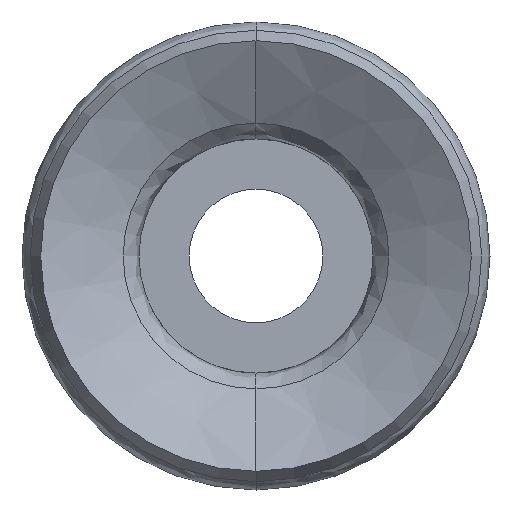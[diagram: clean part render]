
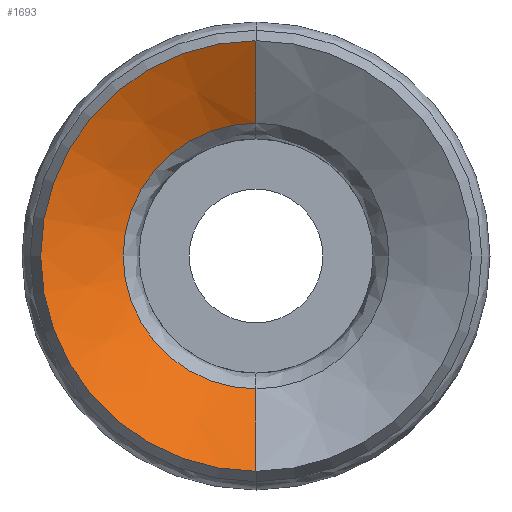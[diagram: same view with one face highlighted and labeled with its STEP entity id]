
A CAD part, front view. The second image highlights one B-rep face of the part: STEP entity #1693.
In plain terms, the highlighted conical face has half-angle 60.29 degrees and reference radius 7.946 mm.
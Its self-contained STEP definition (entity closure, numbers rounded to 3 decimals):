
#7 = AXIS2_PLACEMENT_3D ( 'NONE', #994, #940, #1516 ) ;
#104 = VERTEX_POINT ( 'NONE', #991 ) ;
#112 = CARTESIAN_POINT ( 'NONE',  ( 0., -30.184, 0. ) ) ;
#126 = CARTESIAN_POINT ( 'NONE',  ( 0., -30.184, 7.946 ) ) ;
#396 = ORIENTED_EDGE ( 'NONE', *, *, #934, .T. ) ;
#482 = VERTEX_POINT ( 'NONE', #1556 ) ;
#546 = VERTEX_POINT ( 'NONE', #1397 ) ;
#636 = ORIENTED_EDGE ( 'NONE', *, *, #1482, .T. ) ;
#647 = CIRCLE ( 'NONE', #1240, 12.88 ) ;
#670 = CARTESIAN_POINT ( 'NONE',  ( 0., -33., 0. ) ) ;
#678 = DIRECTION ( 'NONE',  ( 0., -1., 0. ) ) ;
#780 = DIRECTION ( 'NONE',  ( 0., 0., 1. ) ) ;
#790 = FACE_OUTER_BOUND ( 'NONE', #1483, .T. ) ;
#810 = LINE ( 'NONE', #126, #1478 ) ;
#896 = DIRECTION ( 'NONE',  ( 0., 1., 0. ) ) ;
#927 = CIRCLE ( 'NONE', #1077, 7.946 ) ;
#934 = EDGE_CURVE ( 'NONE', #482, #1356, #927, .T. ) ;
#940 = DIRECTION ( 'NONE',  ( 0., -1., 0. ) ) ;
#991 = CARTESIAN_POINT ( 'NONE',  ( 0., -33., 12.88 ) ) ;
#994 = CARTESIAN_POINT ( 'NONE',  ( 0., -30.184, 0. ) ) ;
#1049 = EDGE_CURVE ( 'NONE', #1356, #104, #810, .T. ) ;
#1077 = AXIS2_PLACEMENT_3D ( 'NONE', #112, #896, #1675 ) ;
#1117 = LINE ( 'NONE', #1295, #1782 ) ;
#1153 = CARTESIAN_POINT ( 'NONE',  ( 0., -30.184, 7.946 ) ) ;
#1170 = ORIENTED_EDGE ( 'NONE', *, *, #1269, .F. ) ;
#1240 = AXIS2_PLACEMENT_3D ( 'NONE', #670, #678, #780 ) ;
#1269 = EDGE_CURVE ( 'NONE', #482, #546, #1117, .T. ) ;
#1284 = DIRECTION ( 'NONE',  ( 0., -0.496, -0.869 ) ) ;
#1295 = CARTESIAN_POINT ( 'NONE',  ( 0., -30.184, -7.946 ) ) ;
#1337 = ORIENTED_EDGE ( 'NONE', *, *, #1049, .T. ) ;
#1356 = VERTEX_POINT ( 'NONE', #1153 ) ;
#1397 = CARTESIAN_POINT ( 'NONE',  ( 0., -33., -12.88 ) ) ;
#1447 = CONICAL_SURFACE ( 'NONE', #7, 7.946, 1.052 ) ;
#1478 = VECTOR ( 'NONE', #1489, 1000. ) ;
#1482 = EDGE_CURVE ( 'NONE', #104, #546, #647, .T. ) ;
#1483 = EDGE_LOOP ( 'NONE', ( #396, #1337, #636, #1170 ) ) ;
#1489 = DIRECTION ( 'NONE',  ( 0., -0.496, 0.869 ) ) ;
#1516 = DIRECTION ( 'NONE',  ( 0., 0., -1. ) ) ;
#1556 = CARTESIAN_POINT ( 'NONE',  ( 0., -30.184, -7.946 ) ) ;
#1675 = DIRECTION ( 'NONE',  ( 0., 0., -1. ) ) ;
#1693 = ADVANCED_FACE ( 'NONE', ( #790 ), #1447, .F. ) ;
#1782 = VECTOR ( 'NONE', #1284, 1000. ) ;
